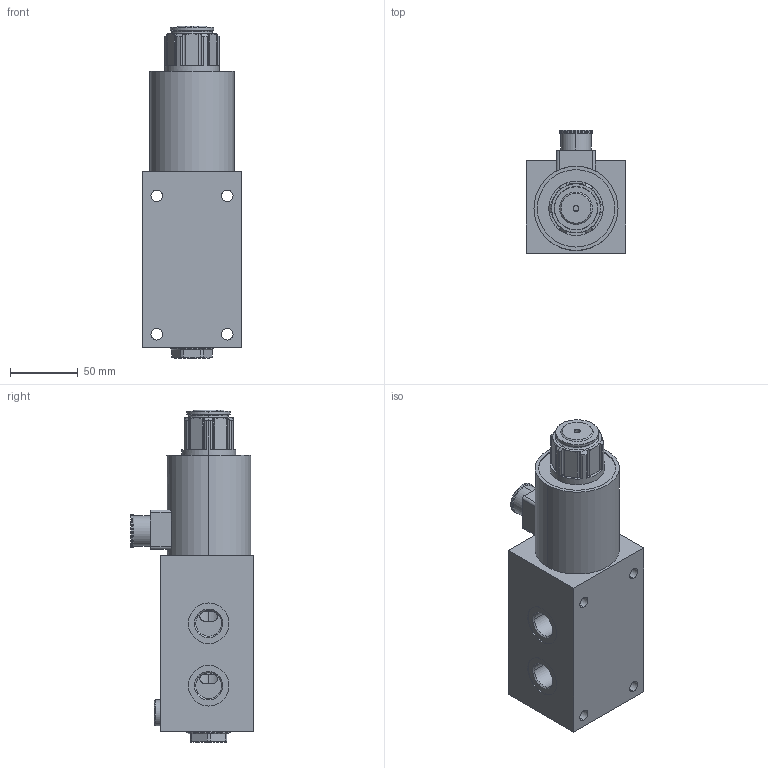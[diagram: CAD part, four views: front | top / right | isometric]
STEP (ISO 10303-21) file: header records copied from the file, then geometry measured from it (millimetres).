
FILE_DESCRIPTION (( 'STEP AP214' ), '1' );
FILE_NAME ('GED-ED6-120-6-12.STEP', '2026-05-12T14:32:49', ( '' ), ( '' ), 'SwSTEP 2.0', 'SolidWorks 2022', '' );
FILE_SCHEMA (( 'AUTOMOTIVE_DESIGN' ));
Length unit declared in the file: millimetre
Products named in the file (1): GED-ED6-120-6-12
Bounding box: 73 x 90.55 x 244.8 mm (x, y, z)
Volume: 802167.5 mm3; surface area: 97518.9 mm2
Topology: 1 solids, 1 shells, 421 faces, 1056 edges, 679 vertices
Faces by surface type: plane 187, cylinder 117, cone 55, bspline 50, torus 12
Entity records: 18005 total; most frequent: CARTESIAN_POINT 6087, ORIENTED_EDGE 2112, DIRECTION 1947, EDGE_CURVE 1056, AXIS2_PLACEMENT_3D 701, VERTEX_POINT 679, LINE 545, VECTOR 545
